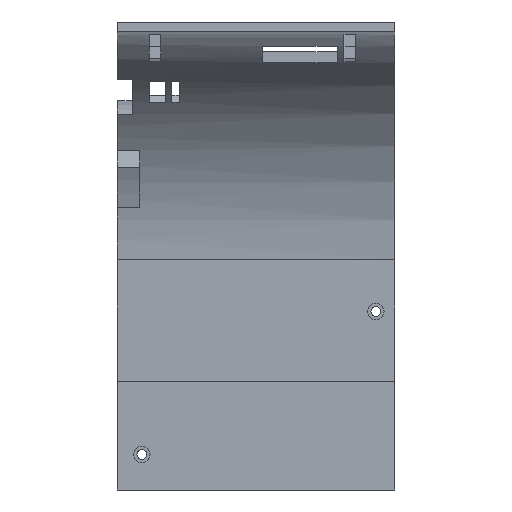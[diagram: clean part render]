
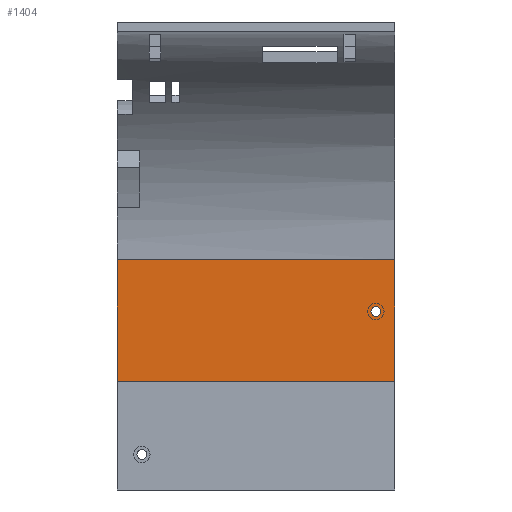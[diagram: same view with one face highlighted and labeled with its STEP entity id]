
A CAD part, front view. The second image highlights one B-rep face of the part: STEP entity #1404.
In plain terms, the highlighted planar face has unit normal (0, -1, 0).
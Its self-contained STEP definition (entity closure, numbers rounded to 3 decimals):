
#193 = CYLINDRICAL_SURFACE('',#194,30.5);
#194 = AXIS2_PLACEMENT_3D('',#195,#196,#197);
#195 = CARTESIAN_POINT('',(-0.5,32.,32.));
#196 = DIRECTION('',(1.,0.,0.));
#197 = DIRECTION('',(0.,1.,0.));
#390 = VERTEX_POINT('',#391);
#391 = CARTESIAN_POINT('',(37.75,62.5,32.));
#420 = EDGE_CURVE('',#421,#390,#423,.T.);
#421 = VERTEX_POINT('',#422);
#422 = CARTESIAN_POINT('',(0.75,62.5,32.));
#423 = SURFACE_CURVE('',#424,(#428,#435),.PCURVE_S1.);
#424 = LINE('',#425,#426);
#425 = CARTESIAN_POINT('',(0.75,62.5,32.));
#426 = VECTOR('',#427,1.);
#427 = DIRECTION('',(1.,0.,0.));
#428 = PCURVE('',#193,#429);
#429 = DEFINITIONAL_REPRESENTATION('',(#430),#434);
#430 = LINE('',#431,#432);
#431 = CARTESIAN_POINT('',(0.,1.25));
#432 = VECTOR('',#433,1.);
#433 = DIRECTION('',(0.,1.));
#434 = ( GEOMETRIC_REPRESENTATION_CONTEXT(2) 
PARAMETRIC_REPRESENTATION_CONTEXT() REPRESENTATION_CONTEXT('2D SPACE',''
  ) );
#435 = PCURVE('',#436,#441);
#436 = PLANE('',#437);
#437 = AXIS2_PLACEMENT_3D('',#438,#439,#440);
#438 = CARTESIAN_POINT('',(0.75,62.5,15.75));
#439 = DIRECTION('',(0.,1.,0.));
#440 = DIRECTION('',(0.,0.,1.));
#441 = DEFINITIONAL_REPRESENTATION('',(#442),#446);
#442 = LINE('',#443,#444);
#443 = CARTESIAN_POINT('',(16.25,0.));
#444 = VECTOR('',#445,1.);
#445 = DIRECTION('',(0.,1.));
#446 = ( GEOMETRIC_REPRESENTATION_CONTEXT(2) 
PARAMETRIC_REPRESENTATION_CONTEXT() REPRESENTATION_CONTEXT('2D SPACE',''
  ) );
#1393 = PLANE('',#1394);
#1394 = AXIS2_PLACEMENT_3D('',#1395,#1396,#1397);
#1395 = CARTESIAN_POINT('',(37.75,62.5,15.75));
#1396 = DIRECTION('',(1.,0.,0.));
#1397 = DIRECTION('',(0.,0.,1.));
#1404 = ADVANCED_FACE('',(#1405,#1485),#436,.F.);
#1405 = FACE_BOUND('',#1406,.F.);
#1406 = EDGE_LOOP('',(#1407,#1437,#1463,#1464));
#1407 = ORIENTED_EDGE('',*,*,#1408,.F.);
#1408 = EDGE_CURVE('',#1409,#1411,#1413,.T.);
#1409 = VERTEX_POINT('',#1410);
#1410 = CARTESIAN_POINT('',(0.75,62.5,15.75));
#1411 = VERTEX_POINT('',#1412);
#1412 = CARTESIAN_POINT('',(37.75,62.5,15.75));
#1413 = SURFACE_CURVE('',#1414,(#1418,#1425),.PCURVE_S1.);
#1414 = LINE('',#1415,#1416);
#1415 = CARTESIAN_POINT('',(0.75,62.5,15.75));
#1416 = VECTOR('',#1417,1.);
#1417 = DIRECTION('',(1.,0.,0.));
#1418 = PCURVE('',#436,#1419);
#1419 = DEFINITIONAL_REPRESENTATION('',(#1420),#1424);
#1420 = LINE('',#1421,#1422);
#1421 = CARTESIAN_POINT('',(0.,0.));
#1422 = VECTOR('',#1423,1.);
#1423 = DIRECTION('',(0.,1.));
#1424 = ( GEOMETRIC_REPRESENTATION_CONTEXT(2) 
PARAMETRIC_REPRESENTATION_CONTEXT() REPRESENTATION_CONTEXT('2D SPACE',''
  ) );
#1425 = PCURVE('',#1426,#1431);
#1426 = PLANE('',#1427);
#1427 = AXIS2_PLACEMENT_3D('',#1428,#1429,#1430);
#1428 = CARTESIAN_POINT('',(0.75,62.5,1.25));
#1429 = DIRECTION('',(0.,1.,0.));
#1430 = DIRECTION('',(0.,0.,1.));
#1431 = DEFINITIONAL_REPRESENTATION('',(#1432),#1436);
#1432 = LINE('',#1433,#1434);
#1433 = CARTESIAN_POINT('',(14.5,0.));
#1434 = VECTOR('',#1435,1.);
#1435 = DIRECTION('',(0.,1.));
#1436 = ( GEOMETRIC_REPRESENTATION_CONTEXT(2) 
PARAMETRIC_REPRESENTATION_CONTEXT() REPRESENTATION_CONTEXT('2D SPACE',''
  ) );
#1437 = ORIENTED_EDGE('',*,*,#1438,.T.);
#1438 = EDGE_CURVE('',#1409,#421,#1439,.T.);
#1439 = SURFACE_CURVE('',#1440,(#1444,#1451),.PCURVE_S1.);
#1440 = LINE('',#1441,#1442);
#1441 = CARTESIAN_POINT('',(0.75,62.5,15.75));
#1442 = VECTOR('',#1443,1.);
#1443 = DIRECTION('',(0.,0.,1.));
#1444 = PCURVE('',#436,#1445);
#1445 = DEFINITIONAL_REPRESENTATION('',(#1446),#1450);
#1446 = LINE('',#1447,#1448);
#1447 = CARTESIAN_POINT('',(0.,0.));
#1448 = VECTOR('',#1449,1.);
#1449 = DIRECTION('',(1.,0.));
#1450 = ( GEOMETRIC_REPRESENTATION_CONTEXT(2) 
PARAMETRIC_REPRESENTATION_CONTEXT() REPRESENTATION_CONTEXT('2D SPACE',''
  ) );
#1451 = PCURVE('',#1452,#1457);
#1452 = PLANE('',#1453);
#1453 = AXIS2_PLACEMENT_3D('',#1454,#1455,#1456);
#1454 = CARTESIAN_POINT('',(0.75,62.5,15.75));
#1455 = DIRECTION('',(1.,0.,0.));
#1456 = DIRECTION('',(0.,0.,1.));
#1457 = DEFINITIONAL_REPRESENTATION('',(#1458),#1462);
#1458 = LINE('',#1459,#1460);
#1459 = CARTESIAN_POINT('',(0.,0.));
#1460 = VECTOR('',#1461,1.);
#1461 = DIRECTION('',(1.,0.));
#1462 = ( GEOMETRIC_REPRESENTATION_CONTEXT(2) 
PARAMETRIC_REPRESENTATION_CONTEXT() REPRESENTATION_CONTEXT('2D SPACE',''
  ) );
#1463 = ORIENTED_EDGE('',*,*,#420,.T.);
#1464 = ORIENTED_EDGE('',*,*,#1465,.F.);
#1465 = EDGE_CURVE('',#1411,#390,#1466,.T.);
#1466 = SURFACE_CURVE('',#1467,(#1471,#1478),.PCURVE_S1.);
#1467 = LINE('',#1468,#1469);
#1468 = CARTESIAN_POINT('',(37.75,62.5,15.75));
#1469 = VECTOR('',#1470,1.);
#1470 = DIRECTION('',(0.,0.,1.));
#1471 = PCURVE('',#436,#1472);
#1472 = DEFINITIONAL_REPRESENTATION('',(#1473),#1477);
#1473 = LINE('',#1474,#1475);
#1474 = CARTESIAN_POINT('',(0.,37.));
#1475 = VECTOR('',#1476,1.);
#1476 = DIRECTION('',(1.,0.));
#1477 = ( GEOMETRIC_REPRESENTATION_CONTEXT(2) 
PARAMETRIC_REPRESENTATION_CONTEXT() REPRESENTATION_CONTEXT('2D SPACE',''
  ) );
#1478 = PCURVE('',#1393,#1479);
#1479 = DEFINITIONAL_REPRESENTATION('',(#1480),#1484);
#1480 = LINE('',#1481,#1482);
#1481 = CARTESIAN_POINT('',(0.,0.));
#1482 = VECTOR('',#1483,1.);
#1483 = DIRECTION('',(1.,0.));
#1484 = ( GEOMETRIC_REPRESENTATION_CONTEXT(2) 
PARAMETRIC_REPRESENTATION_CONTEXT() REPRESENTATION_CONTEXT('2D SPACE',''
  ) );
#1485 = FACE_BOUND('',#1486,.F.);
#1486 = EDGE_LOOP('',(#1487));
#1487 = ORIENTED_EDGE('',*,*,#1488,.F.);
#1488 = EDGE_CURVE('',#1489,#1489,#1491,.T.);
#1489 = VERTEX_POINT('',#1490);
#1490 = CARTESIAN_POINT('',(35.25,62.5,25.741));
#1491 = SURFACE_CURVE('',#1492,(#1497,#1504),.PCURVE_S1.);
#1492 = CIRCLE('',#1493,0.65);
#1493 = AXIS2_PLACEMENT_3D('',#1494,#1495,#1496);
#1494 = CARTESIAN_POINT('',(35.25,62.5,25.091));
#1495 = DIRECTION('',(0.,1.,0.));
#1496 = DIRECTION('',(0.,0.,1.));
#1497 = PCURVE('',#436,#1498);
#1498 = DEFINITIONAL_REPRESENTATION('',(#1499),#1503);
#1499 = CIRCLE('',#1500,0.65);
#1500 = AXIS2_PLACEMENT_2D('',#1501,#1502);
#1501 = CARTESIAN_POINT('',(9.341,34.5));
#1502 = DIRECTION('',(1.,0.));
#1503 = ( GEOMETRIC_REPRESENTATION_CONTEXT(2) 
PARAMETRIC_REPRESENTATION_CONTEXT() REPRESENTATION_CONTEXT('2D SPACE',''
  ) );
#1504 = PCURVE('',#1505,#1510);
#1505 = CYLINDRICAL_SURFACE('',#1506,0.65);
#1506 = AXIS2_PLACEMENT_3D('',#1507,#1508,#1509);
#1507 = CARTESIAN_POINT('',(35.25,59.65,25.091));
#1508 = DIRECTION('',(0.,1.,0.));
#1509 = DIRECTION('',(0.,0.,1.));
#1510 = DEFINITIONAL_REPRESENTATION('',(#1511),#1515);
#1511 = LINE('',#1512,#1513);
#1512 = CARTESIAN_POINT('',(0.,2.85));
#1513 = VECTOR('',#1514,1.);
#1514 = DIRECTION('',(1.,0.));
#1515 = ( GEOMETRIC_REPRESENTATION_CONTEXT(2) 
PARAMETRIC_REPRESENTATION_CONTEXT() REPRESENTATION_CONTEXT('2D SPACE',''
  ) );
